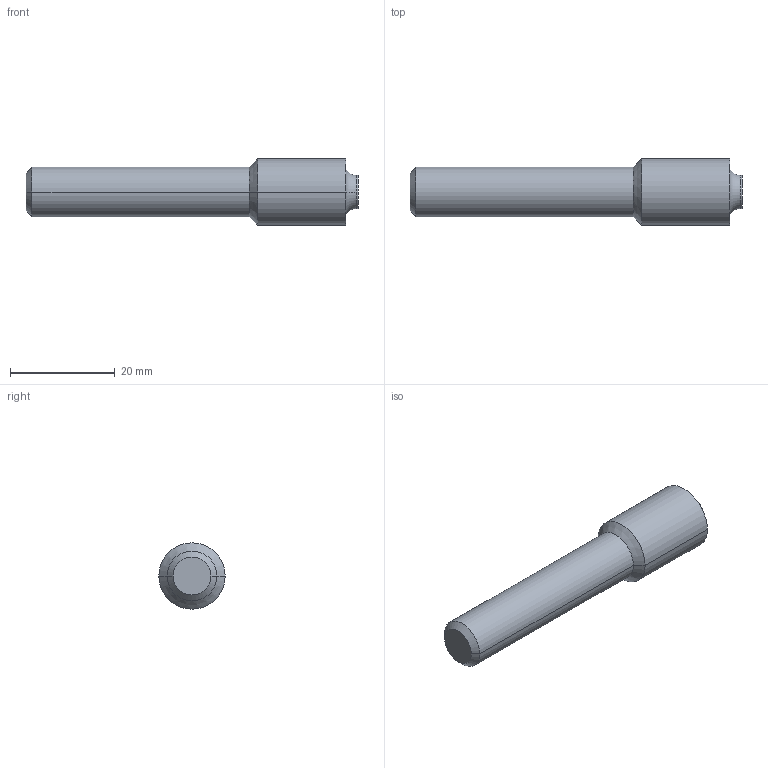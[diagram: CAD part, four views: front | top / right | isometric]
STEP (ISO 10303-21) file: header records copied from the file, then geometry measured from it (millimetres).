
FILE_DESCRIPTION (( 'STEP AP214' ), '1' );
FILE_NAME ('EQ237006.STEP', '2022-01-26T02:49:20', ( 'USER' ), ( '' ), 'SwSTEP 2.0', 'SolidWorks 2014', '' );
FILE_SCHEMA (( 'AUTOMOTIVE_DESIGN' ));
Length unit declared in the file: millimetre
Products named in the file (1): EQ237006
Bounding box: 63.5 x 12.7 x 12.7 mm (x, y, z)
Volume: 5406.2 mm3; surface area: 2238 mm2
Topology: 1 solids, 1 shells, 15 faces, 28 edges, 16 vertices
Faces by surface type: cylinder 6, cone 4, plane 3, torus 2
Entity records: 410 total; most frequent: DIRECTION 78, CARTESIAN_POINT 60, ORIENTED_EDGE 56, AXIS2_PLACEMENT_3D 34, EDGE_CURVE 28, CIRCLE 18, EDGE_LOOP 16, VERTEX_POINT 16
